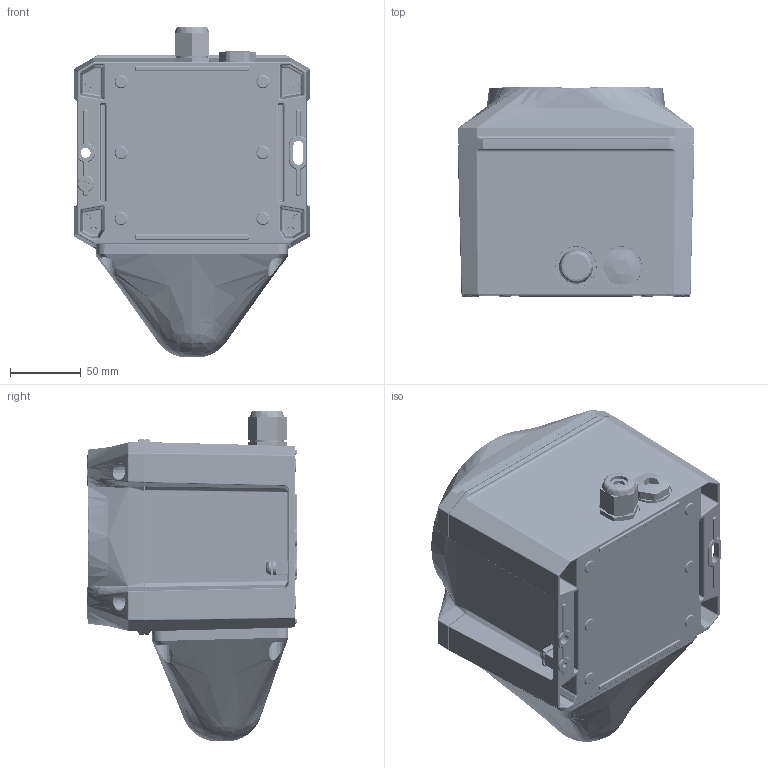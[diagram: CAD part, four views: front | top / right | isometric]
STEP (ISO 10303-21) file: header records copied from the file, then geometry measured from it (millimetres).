
FILE_DESCRIPTION (( 'STEP AP214' ), '1' );
FILE_NAME ('20240514_PRO L EX.STEP', '2024-05-14T09:03:01', ( '' ), ( '' ), 'SwSTEP 2.0', 'SolidWorks 2021', '' );
FILE_SCHEMA (( 'AUTOMOTIVE_DESIGN' ));
Length unit declared in the file: millimetre
Products named in the file (21): 30454-011_Standard (30454-011); 20240514_PRO L EX; 30454-012_Blitzleuchtenvariante; 30454-026_Leuchtenvariante EX; EX-Kabelverschr Pro10; socket button head screw_iso_ISO 7380 - M5 x 10 --- 10N; socket button head screw_iso_ISO 7380 - M4 x 12 --- 12N; 30454-101; 30454-103; 30304-021; Kontaktscheibe_020200236  M5  St vz; Klammer; 30304-019; socket head cap screw_din_DIN 912 M6 x 25 --- 25N; Verschlussschraube-Pro10 3G-3D; 30454-102_Leuchtenvariante (LED) EX; plain washer grade a_din_Washer DIN 125 - A 5.3; Unterlegscheibe 11x6,4x1,5--Ettinger; 30454-024; 30454-025; socket button head screw_iso_ISO 7380 - M5 x 16 --- 16N
Assembly tree (32 placements, depth 5):
  20240514_PRO L EX
    30454-101
      30454-103
        30454-025
          30454-011_Standard (30454-011)
      30454-024
      socket button head screw_iso_ISO 7380 - M4 x 12 --- 12N  x3
      socket head cap screw_din_DIN 912 M6 x 25 --- 25N  x4
      Unterlegscheibe 11x6,4x1,5--Ettinger  x4
    30454-102_Leuchtenvariante (LED) EX
      30454-026_Leuchtenvariante EX
        30454-012_Blitzleuchtenvariante
        EX-Kabelverschr Pro10
        Verschlussschraube-Pro10 3G-3D
      socket button head screw_iso_ISO 7380 - M5 x 10 --- 10N  x4
      Klammer
      Kontaktscheibe_020200236  M5  St vz  x2
      socket button head screw_iso_ISO 7380 - M5 x 16 --- 16N
      plain washer grade a_din_Washer DIN 125 - A 5.3
      30304-019
        30304-021
Bounding box: 167 x 147.81 x 233.43 mm (x, y, z)
Volume: 696707.2 mm3; surface area: 394930.6 mm2
Topology: 43 solids, 44 shells, 6058 faces, 15191 edges, 9262 vertices
Faces by surface type: bspline 2361, plane 1376, cylinder 930, cone 586, torus 498, sphere 307
Entity records: 344695 total; most frequent: CARTESIAN_POINT 221054, ORIENTED_EDGE 28410, DIRECTION 20310, EDGE_CURVE 14205, VERTEX_POINT 8600, AXIS2_PLACEMENT_3D 8564, EDGE_LOOP 5967, FACE_OUTER_BOUND 5785
